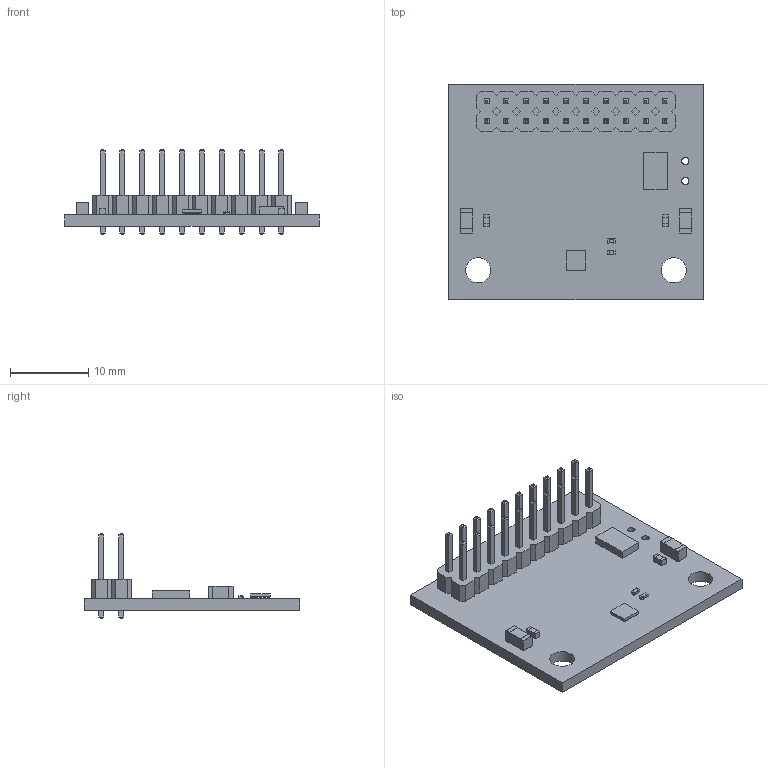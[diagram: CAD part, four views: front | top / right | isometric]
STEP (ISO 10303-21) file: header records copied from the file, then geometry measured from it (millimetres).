
FILE_DESCRIPTION(/* description */ (''),/* implementation_level */ '2;1');
FILE_NAME(/* name */ 'FH3D04_Solder-PCB_V1.0R1.brd.stp',/* time_stamp */ '2024-02-28T20:04:02+01:00',/* author */ ('tis'),/* organization */ (''),/* preprocessor_version */ 'ST-DEVELOPER v20',/* originating_system */ 'Autodesk Inventor 2024',/* authorisation */ '');
FILE_SCHEMA (('AUTOMOTIVE_DESIGN { 1 0 10303 214 3 1 1 }'));
Length unit declared in the file: millimetre
Products named in the file (8): FH3D04_Solder-PCB_V1.0R1.brd; FH3D04_Solder-PCB_V1.0R1.brd_Kontur; C0603X_INCH; C1206G_INCH; tbd; tbd_1; R0402_INCH; MA10-2
Assembly tree (10 placements, depth 2):
  FH3D04_Solder-PCB_V1.0R1.brd
    FH3D04_Solder-PCB_V1.0R1.brd_Kontur
    C0603X_INCH  x2
    C1206G_INCH  x2
    tbd
    tbd_1
    R0402_INCH  x2
    MA10-2
Bounding box: 32.5 x 27.5 x 10.8 mm (x, y, z)
Volume: 1689.5 mm3; surface area: 3052.2 mm2
Topology: 10 solids, 10 shells, 1000 faces, 2326 edges, 1346 vertices
Faces by surface type: plane 728, cylinder 204, sphere 68
Full cylindrical faces by diameter (mm): 0.3 x20, 0.32 x40, 0.914 x2, 1.016 x20, 3.2 x2
Entity records: 25266 total; most frequent: CARTESIAN_POINT 4178, DIRECTION 4164, ORIENTED_EDGE 3952, EDGE_CURVE 1976, LINE 1548, VECTOR 1548, AXIS2_PLACEMENT_3D 1308, VERTEX_POINT 1176
